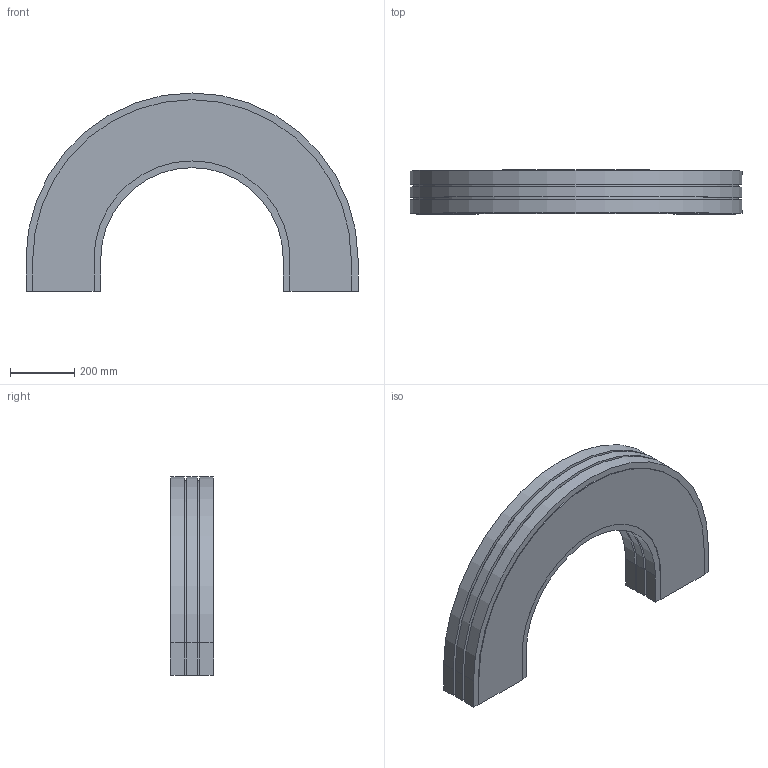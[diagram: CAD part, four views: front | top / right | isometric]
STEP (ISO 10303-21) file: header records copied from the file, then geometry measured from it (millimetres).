
FILE_DESCRIPTION (( 'STEP AP214' ), '1' );
FILE_NAME ('02.150H18.230.N FS-MTC-150 Bocht horizontaal 180°.STEP', '2013-03-29T11:12:15', ( 'Gebruiker' ), ( '' ), 'SwSTEP 2.0', 'SolidWorks 2012', '' );
FILE_SCHEMA (( 'AUTOMOTIVE_DESIGN' ));
Length unit declared in the file: millimetre
Products named in the file (1): 02.150H18.230.N FS-MTC-150 Bocht horizontaal 180°
Bounding box: 1032.5 x 136 x 616.25 mm (x, y, z)
Volume: 45208187.8 mm3; surface area: 1263797.6 mm2
Topology: 1 solids, 1 shells, 58 faces, 168 edges, 112 vertices
Faces by surface type: plane 44, cylinder 14
Entity records: 1934 total; most frequent: CARTESIAN_POINT 339, ORIENTED_EDGE 336, DIRECTION 314, EDGE_CURVE 168, LINE 140, VECTOR 140, VERTEX_POINT 112, AXIS2_PLACEMENT_3D 87
